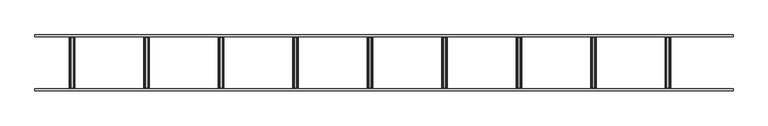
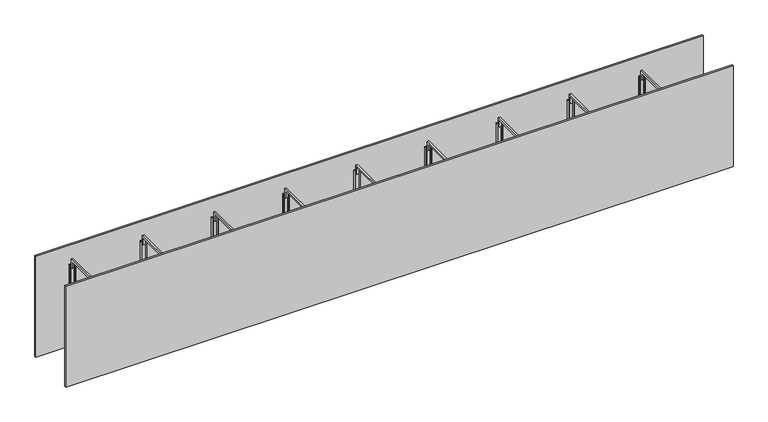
"""IFC4 building model written with IfcOpenShell, lengths in millimetres: proxy geometry, Betobeam MG : -."""

import ifcopenshell
import ifcopenshell.guid

model = None  # the IFC model being written
_history = None  # IfcOwnerHistory: only IFC2X3 demands one
_inside = {}  # id of a spatial element -> (the spatial element, [elements in it])
_under = {}  # id of a project, library or spatial element -> (it, [spatial elements below it])
_declared = {}  # id of a project -> (the project, [libraries it declares])
_typed = {}  # id of a type object -> (the type object, [elements of that type])
_made_of = {}  # id of a material, layer set ... -> (it, [elements and type objects made of it])


def new_model(schema):
    """Start an empty IFC model of exactly this schema.

    Asked for "IFC4X3", IfcOpenShell would pick the latest addendum, in which some entities
    have other attributes; the version numbers below select the first issue.
    IFC2X3 requires an IfcOwnerHistory on every rooted entity: one is made here for all.
    """
    global model, _history
    if schema == "IFC4X3":
        model = ifcopenshell.file(schema_version=(4, 3, 0, 0))
    else:
        model = ifcopenshell.file(schema=schema)
    _inside.clear()
    _under.clear()
    _declared.clear()
    _typed.clear()
    _made_of.clear()
    _history = None
    if model.schema == "IFC2X3":
        org = make("IfcOrganization", Name="unknown")
        user = make(
            "IfcPersonAndOrganization",
            ThePerson=make("IfcPerson", FamilyName="unknown"),
            TheOrganization=org,
        )
        app = make(
            "IfcApplication",
            ApplicationDeveloper=org,
            Version="unknown",
            ApplicationFullName="unknown",
            ApplicationIdentifier="unknown",
        )
        _history = make(
            "IfcOwnerHistory",
            OwningUser=user,
            OwningApplication=app,
            ChangeAction="ADDED",
            CreationDate=0,
        )
    return model


def make(cls, **values):
    """One entity of the class cls with the attributes given. An attribute that is None is left unset."""
    return model.create_entity(
        cls, **{name: value for name, value in values.items() if value is not None}
    )


def rooted(cls, **values):
    """An entity with a GlobalId (a new one), such as an element, a storey or a relation."""
    return make(cls, GlobalId=ifcopenshell.guid.new(), OwnerHistory=_history, **values)


def si_unit(unit_type, name, prefix=None):
    """IfcSIUnit, for example si_unit("LENGTHUNIT", "METRE", prefix="MILLI")."""
    return make("IfcSIUnit", UnitType=unit_type, Prefix=prefix, Name=name)


def assignment(units):
    """IfcUnitAssignment: the units of a project."""
    return None if units is None else make("IfcUnitAssignment", Units=units)


def point(xyz):
    """IfcCartesianPoint."""
    return None if xyz is None else make("IfcCartesianPoint", Coordinates=xyz)


def direction(xyz):
    """IfcDirection."""
    return None if xyz is None else make("IfcDirection", DirectionRatios=xyz)


def frame(location, z_axis=None, x_axis=None):
    """IfcAxis2Placement3D, a coordinate frame: its origin and axes. An axis left out is left unset."""
    return make(
        "IfcAxis2Placement3D",
        Location=point(location),
        Axis=direction(z_axis),
        RefDirection=direction(x_axis),
    )


def origin():
    """The frame at (0, 0, 0) with its axes left unset."""
    return frame((0.0, 0.0, 0.0))


def origin_with_axes():
    """The frame at (0, 0, 0) with the z axis (0, 0, 1) and the x axis (1, 0, 0) written out."""
    return frame((0.0, 0.0, 0.0), z_axis=(0.0, 0.0, 1.0), x_axis=(1.0, 0.0, 0.0))


def place(relative_to, where):
    """IfcLocalPlacement: puts the frame where relative to a parent placement (None: the world)."""
    return make(
        "IfcLocalPlacement", PlacementRelTo=relative_to, RelativePlacement=where
    )


def context(
    kind, dimensions, precision=None, world=None, true_north=None, identifier=None
):
    """IfcGeometricRepresentationContext, for example the 3D "Model" context."""
    return make(
        "IfcGeometricRepresentationContext",
        ContextIdentifier=identifier,
        ContextType=kind,
        CoordinateSpaceDimension=dimensions,
        Precision=precision,
        WorldCoordinateSystem=world,
        TrueNorth=true_north,
    )


def project(units=None, contexts=None):
    """IfcProject with its units and contexts."""
    return rooted(
        "IfcProject",
        Name="project",
        RepresentationContexts=contexts,
        UnitsInContext=assignment(units),
    )


def spatial(cls, under=None, at=None, **own):
    """A site, building, storey or space (cls), placed at a placement, below another one or the project."""
    s = rooted(cls, ObjectPlacement=at, **own)
    if under is not None:
        _under.setdefault(under.id(), (under, []))[1].append(s)
    return s


def polyline(points):
    """IfcPolyline through the points."""
    return make("IfcPolyline", Points=[point(p) for p in points])


def outline(outer, holes=None, kind="AREA"):
    """IfcArbitraryClosedProfileDef: a profile drawn as a closed curve; with holes, ...WithVoids."""
    if holes is None:
        return make("IfcArbitraryClosedProfileDef", ProfileType=kind, OuterCurve=outer)
    return make(
        "IfcArbitraryProfileDefWithVoids",
        ProfileType=kind,
        OuterCurve=outer,
        InnerCurves=holes,
    )


def extrude(swept, where, along, depth):
    """IfcExtrudedAreaSolid: the profile swept, set in the frame where, extruded along a direction by depth."""
    return make(
        "IfcExtrudedAreaSolid",
        SweptArea=swept,
        Position=where,
        ExtrudedDirection=direction(along),
        Depth=depth,
    )


def faces_of(points, faces, orient=None, outer=None):
    """IfcFace entities. A face is a list of loops; a loop is a list of indices into points, from 0.

    orient and outer hold one flag for each loop. By default every Orientation is true, the
    first loop of a face is its IfcFaceOuterBound and the others are IfcFaceBound.
    """
    made = []
    for i, loops in enumerate(faces):
        bounds = []
        for j, loop in enumerate(loops):
            is_outer = j == 0 if outer is None else outer[i][j]
            bounds.append(
                make(
                    "IfcFaceOuterBound" if is_outer else "IfcFaceBound",
                    Bound=make("IfcPolyLoop", Polygon=[points[k] for k in loop]),
                    Orientation=True if orient is None else orient[i][j],
                )
            )
        made.append(make("IfcFace", Bounds=bounds))
    return made


def faceted_brep(points, faces, orient=None, outer=None, voids=None):
    """IfcFacetedBrep: a solid bounded by flat faces; with voids (closed shells), ...WithVoids."""
    shared = [point(p) for p in points]
    hull = make("IfcClosedShell", CfsFaces=faces_of(shared, faces, orient, outer))
    if voids is None:
        return make("IfcFacetedBrep", Outer=hull)
    return make(
        "IfcFacetedBrepWithVoids",
        Outer=hull,
        Voids=[
            make(cls, CfsFaces=faces_of(shared, fs, o, b)) for cls, fs, o, b in voids
        ],
    )


def shape(context_of_items, identifier, shape_type, items):
    """IfcShapeRepresentation: the items that make up one representation, for example the "Body"."""
    return make(
        "IfcShapeRepresentation",
        ContextOfItems=context_of_items,
        RepresentationIdentifier=identifier,
        RepresentationType=shape_type,
        Items=items,
    )


def source(mapping_origin, context_of_items, identifier, shape_type, items):
    """IfcRepresentationMap: a shape defined once, which mapped items show again and again."""
    return make(
        "IfcRepresentationMap",
        MappingOrigin=mapping_origin,
        MappedRepresentation=shape(context_of_items, identifier, shape_type, items),
    )


def transform(
    local_origin,
    x_axis=None,
    y_axis=None,
    z_axis=None,
    scale=None,
    scale2=None,
    scale3=None,
    uniform=True,
):
    """IfcCartesianTransformationOperator3D, or its non-uniform kind. x_axis, y_axis, z_axis: its Axis1, 2, 3."""
    if uniform:
        return make(
            "IfcCartesianTransformationOperator3D",
            Axis1=direction(x_axis),
            Axis2=direction(y_axis),
            LocalOrigin=point(local_origin),
            Scale=scale,
            Axis3=direction(z_axis),
        )
    return make(
        "IfcCartesianTransformationOperator3DnonUniform",
        Axis1=direction(x_axis),
        Axis2=direction(y_axis),
        LocalOrigin=point(local_origin),
        Scale=scale,
        Axis3=direction(z_axis),
        Scale2=scale2,
        Scale3=scale3,
    )


def mapped(mapping_source, mapping_target):
    """IfcMappedItem: shows the shape of a source again, moved by a transform."""
    return make(
        "IfcMappedItem", MappingSource=mapping_source, MappingTarget=mapping_target
    )


def made_of(thing, what):
    """Note that an element or type object is made of a material, layer set ...; save() writes the relation."""
    if what is not None:
        _made_of.setdefault(what.id(), (what, []))[1].append(thing)
    return thing


def element(
    cls,
    number,
    at=None,
    inside=None,
    cuts=None,
    type_object=None,
    material=None,
    context=None,
    identifier="Body",
    shape_type=None,
    held_by="IfcProductDefinitionShape",
    body=None,
    shapes=None,
    **own,
):
    """One element of the class cls, such as IfcWall. Its Tag is "e" and its number.

    at: its placement. inside: the storey or other place that contains it. cuts: it is an
    opening in that element (IfcRelVoidsElement). A single representation is given by context,
    identifier, shape_type and body (its items); several are given by shapes. held_by: the class
    of the entity that holds the representations. save() writes the other relations.
    """
    e = rooted(cls, Tag="e%d" % number, ObjectPlacement=at, **own)
    if body is not None:
        shapes = [shape(context, identifier, shape_type, body)]
    if shapes is not None:
        e.Representation = make(held_by, Representations=shapes)
    if inside is not None:
        _inside.setdefault(inside.id(), (inside, []))[1].append(e)
    if cuts is not None:
        rooted(
            "IfcRelVoidsElement", RelatingBuildingElement=cuts, RelatedOpeningElement=e
        )
    if type_object is not None:
        _typed.setdefault(type_object.id(), (type_object, []))[1].append(e)
    return made_of(e, material)


def aggregate(whole, parts):
    """IfcRelAggregates: a whole, such as a stair, and the parts it consists of."""
    return rooted("IfcRelAggregates", RelatingObject=whole, RelatedObjects=parts)


def save(model, path):
    """Write the relations noted so far, then the file.

    IfcRelAggregates (storeys below a building ...), IfcRelContainedInSpatialStructure (elements
    in a storey), IfcRelDefinesByType, IfcRelAssociatesMaterial and IfcRelDeclares: one each for
    every whole, place, type object, material and project.
    """
    for whole, parts in _under.values():
        aggregate(whole, parts)
    for where, things in _inside.values():
        rooted(
            "IfcRelContainedInSpatialStructure",
            RelatedElements=things,
            RelatingStructure=where,
        )
    for kind, things in _typed.values():
        rooted("IfcRelDefinesByType", RelatedObjects=things, RelatingType=kind)
    for what, things in _made_of.values():
        rooted("IfcRelAssociatesMaterial", RelatedObjects=things, RelatingMaterial=what)
    for by, libraries in _declared.values():
        rooted("IfcRelDeclares", RelatingContext=by, RelatedDefinitions=libraries)
    model.write(path)


def generic_models_7b471858(model_context):
    return source(origin(), model_context, "Body", "SolidModel", [
        extrude(outline(polyline([(285.0, 520.0), (285.0, 470.0), (275.0, 470.0), (275.0, 510.0), (25.0, 510.0), (25.0, 470.0), (15.0, 470.0), (15.0, 520.0), (285.0, 520.0)])), frame((3395.0, 0.0, 0.0), z_axis=(1.0, 0.0, 0.0), x_axis=(0.0, 1.0, 0.0)), (0.0, 0.0, 1.0), 10.0),
        faceted_brep([(3385.0, 290.0, 490.0), (3385.0, 275.0, 490.0), (3387.0, 275.0, 490.0), (3387.0, 288.0, 490.0), (3413.0, 288.0, 490.0), (3413.0, 275.0, 490.0), (3415.0, 275.0, 490.0), (3415.0, 290.0, 490.0), (3385.0, 290.0, 0.0), (3385.0, 10.0, 0.0), (3385.0, 10.0, 490.0), (3385.0, 25.0, 490.0), (3385.0, 25.0, 15.0), (3385.0, 275.0, 15.0), (3387.0, 275.0, 15.0), (3387.0, 25.0, 15.0), (3387.0, 25.0, 490.0), (3387.0, 12.0, 490.0), (3387.0, 12.0, 2.0), (3387.0, 288.0, 2.0), (3413.0, 288.0, 2.0), (3413.0, 12.0, 2.0), (3413.0, 12.0, 490.0), (3413.0, 25.0, 490.0), (3413.0, 25.0, 15.0), (3413.0, 275.0, 15.0), (3415.0, 275.0, 15.0), (3415.0, 25.0, 15.0), (3415.0, 25.0, 490.0), (3415.0, 10.0, 490.0), (3415.0, 10.0, 0.0), (3415.0, 290.0, 0.0)], [[[0, 1, 2, 3, 4, 5, 6, 7]], [[1, 0, 8, 9, 10, 11, 12, 13]], [[2, 1, 13, 14]], [[3, 2, 14, 15, 16, 17, 18, 19]], [[4, 3, 19, 20]], [[5, 4, 20, 21, 22, 23, 24, 25]], [[6, 5, 25, 26]], [[7, 6, 26, 27, 28, 29, 30, 31]], [[0, 7, 31, 8]], [[14, 13, 12, 15]], [[20, 19, 18, 21]], [[26, 25, 24, 27]], [[8, 31, 30, 9]], [[10, 29, 28, 23, 22, 17, 16, 11]], [[15, 12, 11, 16]], [[21, 18, 17, 22]], [[27, 24, 23, 28]], [[9, 30, 29, 10]]]),
        extrude(outline(polyline([(285.0, 520.0), (285.0, 470.0), (275.0, 470.0), (275.0, 510.0), (25.0, 510.0), (25.0, 470.0), (15.0, 470.0), (15.0, 520.0), (285.0, 520.0)])), frame((2995.0, 0.0, 0.0), z_axis=(1.0, 0.0, 0.0), x_axis=(0.0, 1.0, 0.0)), (0.0, 0.0, 1.0), 10.0),
        faceted_brep([(2985.0, 290.0, 490.0), (2985.0, 275.0, 490.0), (2987.0, 275.0, 490.0), (2987.0, 288.0, 490.0), (3013.0, 288.0, 490.0), (3013.0, 275.0, 490.0), (3015.0, 275.0, 490.0), (3015.0, 290.0, 490.0), (2985.0, 290.0, 0.0), (2985.0, 10.0, 0.0), (2985.0, 10.0, 490.0), (2985.0, 25.0, 490.0), (2985.0, 25.0, 15.0), (2985.0, 275.0, 15.0), (2987.0, 275.0, 15.0), (2987.0, 25.0, 15.0), (2987.0, 25.0, 490.0), (2987.0, 12.0, 490.0), (2987.0, 12.0, 2.0), (2987.0, 288.0, 2.0), (3013.0, 288.0, 2.0), (3013.0, 12.0, 2.0), (3013.0, 12.0, 490.0), (3013.0, 25.0, 490.0), (3013.0, 25.0, 15.0), (3013.0, 275.0, 15.0), (3015.0, 275.0, 15.0), (3015.0, 25.0, 15.0), (3015.0, 25.0, 490.0), (3015.0, 10.0, 490.0), (3015.0, 10.0, 0.0), (3015.0, 290.0, 0.0)], [[[0, 1, 2, 3, 4, 5, 6, 7]], [[1, 0, 8, 9, 10, 11, 12, 13]], [[2, 1, 13, 14]], [[3, 2, 14, 15, 16, 17, 18, 19]], [[4, 3, 19, 20]], [[5, 4, 20, 21, 22, 23, 24, 25]], [[6, 5, 25, 26]], [[7, 6, 26, 27, 28, 29, 30, 31]], [[0, 7, 31, 8]], [[14, 13, 12, 15]], [[20, 19, 18, 21]], [[26, 25, 24, 27]], [[8, 31, 30, 9]], [[10, 29, 28, 23, 22, 17, 16, 11]], [[15, 12, 11, 16]], [[21, 18, 17, 22]], [[27, 24, 23, 28]], [[9, 30, 29, 10]]]),
        extrude(outline(polyline([(285.0, 520.0), (285.0, 470.0), (275.0, 470.0), (275.0, 510.0), (25.0, 510.0), (25.0, 470.0), (15.0, 470.0), (15.0, 520.0), (285.0, 520.0)])), frame((2595.0, 0.0, 0.0), z_axis=(1.0, 0.0, 0.0), x_axis=(0.0, 1.0, 0.0)), (0.0, 0.0, 1.0), 10.0),
        faceted_brep([(2585.0, 290.0, 490.0), (2585.0, 275.0, 490.0), (2587.0, 275.0, 490.0), (2587.0, 288.0, 490.0), (2613.0, 288.0, 490.0), (2613.0, 275.0, 490.0), (2615.0, 275.0, 490.0), (2615.0, 290.0, 490.0), (2585.0, 290.0, 0.0), (2585.0, 10.0, 0.0), (2585.0, 10.0, 490.0), (2585.0, 25.0, 490.0), (2585.0, 25.0, 15.0), (2585.0, 275.0, 15.0), (2587.0, 275.0, 15.0), (2587.0, 25.0, 15.0), (2587.0, 25.0, 490.0), (2587.0, 12.0, 490.0), (2587.0, 12.0, 2.0), (2587.0, 288.0, 2.0), (2613.0, 288.0, 2.0), (2613.0, 12.0, 2.0), (2613.0, 12.0, 490.0), (2613.0, 25.0, 490.0), (2613.0, 25.0, 15.0), (2613.0, 275.0, 15.0), (2615.0, 275.0, 15.0), (2615.0, 25.0, 15.0), (2615.0, 25.0, 490.0), (2615.0, 10.0, 490.0), (2615.0, 10.0, 0.0), (2615.0, 290.0, 0.0)], [[[0, 1, 2, 3, 4, 5, 6, 7]], [[1, 0, 8, 9, 10, 11, 12, 13]], [[2, 1, 13, 14]], [[3, 2, 14, 15, 16, 17, 18, 19]], [[4, 3, 19, 20]], [[5, 4, 20, 21, 22, 23, 24, 25]], [[6, 5, 25, 26]], [[7, 6, 26, 27, 28, 29, 30, 31]], [[0, 7, 31, 8]], [[14, 13, 12, 15]], [[20, 19, 18, 21]], [[26, 25, 24, 27]], [[8, 31, 30, 9]], [[10, 29, 28, 23, 22, 17, 16, 11]], [[15, 12, 11, 16]], [[21, 18, 17, 22]], [[27, 24, 23, 28]], [[9, 30, 29, 10]]]),
        extrude(outline(polyline([(285.0, 520.0), (285.0, 470.0), (275.0, 470.0), (275.0, 510.0), (25.0, 510.0), (25.0, 470.0), (15.0, 470.0), (15.0, 520.0), (285.0, 520.0)])), frame((2195.0, 0.0, 0.0), z_axis=(1.0, 0.0, 0.0), x_axis=(0.0, 1.0, 0.0)), (0.0, 0.0, 1.0), 10.0),
        faceted_brep([(2185.0, 290.0, 490.0), (2185.0, 275.0, 490.0), (2187.0, 275.0, 490.0), (2187.0, 288.0, 490.0), (2213.0, 288.0, 490.0), (2213.0, 275.0, 490.0), (2215.0, 275.0, 490.0), (2215.0, 290.0, 490.0), (2185.0, 290.0, 0.0), (2185.0, 10.0, 0.0), (2185.0, 10.0, 490.0), (2185.0, 25.0, 490.0), (2185.0, 25.0, 15.0), (2185.0, 275.0, 15.0), (2187.0, 275.0, 15.0), (2187.0, 25.0, 15.0), (2187.0, 25.0, 490.0), (2187.0, 12.0, 490.0), (2187.0, 12.0, 2.0), (2187.0, 288.0, 2.0), (2213.0, 288.0, 2.0), (2213.0, 12.0, 2.0), (2213.0, 12.0, 490.0), (2213.0, 25.0, 490.0), (2213.0, 25.0, 15.0), (2213.0, 275.0, 15.0), (2215.0, 275.0, 15.0), (2215.0, 25.0, 15.0), (2215.0, 25.0, 490.0), (2215.0, 10.0, 490.0), (2215.0, 10.0, 0.0), (2215.0, 290.0, 0.0)], [[[0, 1, 2, 3, 4, 5, 6, 7]], [[1, 0, 8, 9, 10, 11, 12, 13]], [[2, 1, 13, 14]], [[3, 2, 14, 15, 16, 17, 18, 19]], [[4, 3, 19, 20]], [[5, 4, 20, 21, 22, 23, 24, 25]], [[6, 5, 25, 26]], [[7, 6, 26, 27, 28, 29, 30, 31]], [[0, 7, 31, 8]], [[14, 13, 12, 15]], [[20, 19, 18, 21]], [[26, 25, 24, 27]], [[8, 31, 30, 9]], [[10, 29, 28, 23, 22, 17, 16, 11]], [[15, 12, 11, 16]], [[21, 18, 17, 22]], [[27, 24, 23, 28]], [[9, 30, 29, 10]]]),
        extrude(outline(polyline([(285.0, 520.0), (285.0, 470.0), (275.0, 470.0), (275.0, 510.0), (25.0, 510.0), (25.0, 470.0), (15.0, 470.0), (15.0, 520.0), (285.0, 520.0)])), frame((1795.0, 0.0, 0.0), z_axis=(1.0, 0.0, 0.0), x_axis=(0.0, 1.0, 0.0)), (0.0, 0.0, 1.0), 10.0),
        faceted_brep([(1785.0, 290.0, 490.0), (1785.0, 275.0, 490.0), (1787.0, 275.0, 490.0), (1787.0, 288.0, 490.0), (1813.0, 288.0, 490.0), (1813.0, 275.0, 490.0), (1815.0, 275.0, 490.0), (1815.0, 290.0, 490.0), (1785.0, 290.0, 0.0), (1785.0, 10.0, 0.0), (1785.0, 10.0, 490.0), (1785.0, 25.0, 490.0), (1785.0, 25.0, 15.0), (1785.0, 275.0, 15.0), (1787.0, 275.0, 15.0), (1787.0, 25.0, 15.0), (1787.0, 25.0, 490.0), (1787.0, 12.0, 490.0), (1787.0, 12.0, 2.0), (1787.0, 288.0, 2.0), (1813.0, 288.0, 2.0), (1813.0, 12.0, 2.0), (1813.0, 12.0, 490.0), (1813.0, 25.0, 490.0), (1813.0, 25.0, 15.0), (1813.0, 275.0, 15.0), (1815.0, 275.0, 15.0), (1815.0, 25.0, 15.0), (1815.0, 25.0, 490.0), (1815.0, 10.0, 490.0), (1815.0, 10.0, 0.0), (1815.0, 290.0, 0.0)], [[[0, 1, 2, 3, 4, 5, 6, 7]], [[1, 0, 8, 9, 10, 11, 12, 13]], [[2, 1, 13, 14]], [[3, 2, 14, 15, 16, 17, 18, 19]], [[4, 3, 19, 20]], [[5, 4, 20, 21, 22, 23, 24, 25]], [[6, 5, 25, 26]], [[7, 6, 26, 27, 28, 29, 30, 31]], [[0, 7, 31, 8]], [[14, 13, 12, 15]], [[20, 19, 18, 21]], [[26, 25, 24, 27]], [[8, 31, 30, 9]], [[10, 29, 28, 23, 22, 17, 16, 11]], [[15, 12, 11, 16]], [[21, 18, 17, 22]], [[27, 24, 23, 28]], [[9, 30, 29, 10]]]),
        extrude(outline(polyline([(285.0, 520.0), (285.0, 470.0), (275.0, 470.0), (275.0, 510.0), (25.0, 510.0), (25.0, 470.0), (15.0, 470.0), (15.0, 520.0), (285.0, 520.0)])), frame((1395.0, 0.0, 0.0), z_axis=(1.0, 0.0, 0.0), x_axis=(0.0, 1.0, 0.0)), (0.0, 0.0, 1.0), 10.0),
        faceted_brep([(1385.0, 290.0, 490.0), (1385.0, 275.0, 490.0), (1387.0, 275.0, 490.0), (1387.0, 288.0, 490.0), (1413.0, 288.0, 490.0), (1413.0, 275.0, 490.0), (1415.0, 275.0, 490.0), (1415.0, 290.0, 490.0), (1385.0, 290.0, 0.0), (1385.0, 10.0, 0.0), (1385.0, 10.0, 490.0), (1385.0, 25.0, 490.0), (1385.0, 25.0, 15.0), (1385.0, 275.0, 15.0), (1387.0, 275.0, 15.0), (1387.0, 25.0, 15.0), (1387.0, 25.0, 490.0), (1387.0, 12.0, 490.0), (1387.0, 12.0, 2.0), (1387.0, 288.0, 2.0), (1413.0, 288.0, 2.0), (1413.0, 12.0, 2.0), (1413.0, 12.0, 490.0), (1413.0, 25.0, 490.0), (1413.0, 25.0, 15.0), (1413.0, 275.0, 15.0), (1415.0, 275.0, 15.0), (1415.0, 25.0, 15.0), (1415.0, 25.0, 490.0), (1415.0, 10.0, 490.0), (1415.0, 10.0, 0.0), (1415.0, 290.0, 0.0)], [[[0, 1, 2, 3, 4, 5, 6, 7]], [[1, 0, 8, 9, 10, 11, 12, 13]], [[2, 1, 13, 14]], [[3, 2, 14, 15, 16, 17, 18, 19]], [[4, 3, 19, 20]], [[5, 4, 20, 21, 22, 23, 24, 25]], [[6, 5, 25, 26]], [[7, 6, 26, 27, 28, 29, 30, 31]], [[0, 7, 31, 8]], [[14, 13, 12, 15]], [[20, 19, 18, 21]], [[26, 25, 24, 27]], [[8, 31, 30, 9]], [[10, 29, 28, 23, 22, 17, 16, 11]], [[15, 12, 11, 16]], [[21, 18, 17, 22]], [[27, 24, 23, 28]], [[9, 30, 29, 10]]]),
        extrude(outline(polyline([(285.0, 520.0), (285.0, 470.0), (275.0, 470.0), (275.0, 510.0), (25.0, 510.0), (25.0, 470.0), (15.0, 470.0), (15.0, 520.0), (285.0, 520.0)])), frame((995.0, 0.0, 0.0), z_axis=(1.0, 0.0, 0.0), x_axis=(0.0, 1.0, 0.0)), (0.0, 0.0, 1.0), 10.0),
        faceted_brep([(985.0, 290.0, 490.0), (985.0, 275.0, 490.0), (987.0, 275.0, 490.0), (987.0, 288.0, 490.0), (1013.0, 288.0, 490.0), (1013.0, 275.0, 490.0), (1015.0, 275.0, 490.0), (1015.0, 290.0, 490.0), (985.0, 290.0, 0.0), (985.0, 10.0, 0.0), (985.0, 10.0, 490.0), (985.0, 25.0, 490.0), (985.0, 25.0, 15.0), (985.0, 275.0, 15.0), (987.0, 275.0, 15.0), (987.0, 25.0, 15.0), (987.0, 25.0, 490.0), (987.0, 12.0, 490.0), (987.0, 12.0, 2.0), (987.0, 288.0, 2.0), (1013.0, 288.0, 2.0), (1013.0, 12.0, 2.0), (1013.0, 12.0, 490.0), (1013.0, 25.0, 490.0), (1013.0, 25.0, 15.0), (1013.0, 275.0, 15.0), (1015.0, 275.0, 15.0), (1015.0, 25.0, 15.0), (1015.0, 25.0, 490.0), (1015.0, 10.0, 490.0), (1015.0, 10.0, 0.0), (1015.0, 290.0, 0.0)], [[[0, 1, 2, 3, 4, 5, 6, 7]], [[1, 0, 8, 9, 10, 11, 12, 13]], [[2, 1, 13, 14]], [[3, 2, 14, 15, 16, 17, 18, 19]], [[4, 3, 19, 20]], [[5, 4, 20, 21, 22, 23, 24, 25]], [[6, 5, 25, 26]], [[7, 6, 26, 27, 28, 29, 30, 31]], [[0, 7, 31, 8]], [[14, 13, 12, 15]], [[20, 19, 18, 21]], [[26, 25, 24, 27]], [[8, 31, 30, 9]], [[10, 29, 28, 23, 22, 17, 16, 11]], [[15, 12, 11, 16]], [[21, 18, 17, 22]], [[27, 24, 23, 28]], [[9, 30, 29, 10]]]),
        extrude(outline(polyline([(285.0, 520.0), (285.0, 470.0), (275.0, 470.0), (275.0, 510.0), (25.0, 510.0), (25.0, 470.0), (15.0, 470.0), (15.0, 520.0), (285.0, 520.0)])), frame((595.0, 0.0, 0.0), z_axis=(1.0, 0.0, 0.0), x_axis=(0.0, 1.0, 0.0)), (0.0, 0.0, 1.0), 10.0),
        faceted_brep([(585.0, 290.0, 490.0), (585.0, 275.0, 490.0), (587.0, 275.0, 490.0), (587.0, 288.0, 490.0), (613.0, 288.0, 490.0), (613.0, 275.0, 490.0), (615.0, 275.0, 490.0), (615.0, 290.0, 490.0), (585.0, 290.0, 0.0), (585.0, 10.0, 0.0), (585.0, 10.0, 490.0), (585.0, 25.0, 490.0), (585.0, 25.0, 15.0), (585.0, 275.0, 15.0), (587.0, 275.0, 15.0), (587.0, 25.0, 15.0), (587.0, 25.0, 490.0), (587.0, 12.0, 490.0), (587.0, 12.0, 2.0), (587.0, 288.0, 2.0), (613.0, 288.0, 2.0), (613.0, 12.0, 2.0), (613.0, 12.0, 490.0), (613.0, 25.0, 490.0), (613.0, 25.0, 15.0), (613.0, 275.0, 15.0), (615.0, 275.0, 15.0), (615.0, 25.0, 15.0), (615.0, 25.0, 490.0), (615.0, 10.0, 490.0), (615.0, 10.0, 0.0), (615.0, 290.0, 0.0)], [[[0, 1, 2, 3, 4, 5, 6, 7]], [[1, 0, 8, 9, 10, 11, 12, 13]], [[2, 1, 13, 14]], [[3, 2, 14, 15, 16, 17, 18, 19]], [[4, 3, 19, 20]], [[5, 4, 20, 21, 22, 23, 24, 25]], [[6, 5, 25, 26]], [[7, 6, 26, 27, 28, 29, 30, 31]], [[0, 7, 31, 8]], [[14, 13, 12, 15]], [[20, 19, 18, 21]], [[26, 25, 24, 27]], [[8, 31, 30, 9]], [[10, 29, 28, 23, 22, 17, 16, 11]], [[15, 12, 11, 16]], [[21, 18, 17, 22]], [[27, 24, 23, 28]], [[9, 30, 29, 10]]]),
        extrude(outline(polyline([(285.0, 520.0), (285.0, 470.0), (275.0, 470.0), (275.0, 510.0), (25.0, 510.0), (25.0, 470.0), (15.0, 470.0), (15.0, 520.0), (285.0, 520.0)])), frame((195.0, 0.0, 0.0), z_axis=(1.0, 0.0, 0.0), x_axis=(0.0, 1.0, 0.0)), (0.0, 0.0, 1.0), 10.0),
        faceted_brep([(185.0, 290.0, 490.0), (185.0, 275.0, 490.0), (187.0, 275.0, 490.0), (187.0, 288.0, 490.0), (213.0, 288.0, 490.0), (213.0, 275.0, 490.0), (215.0, 275.0, 490.0), (215.0, 290.0, 490.0), (185.0, 290.0, 0.0), (185.0, 10.0, 0.0), (185.0, 10.0, 490.0), (185.0, 25.0, 490.0), (185.0, 25.0, 15.0), (185.0, 275.0, 15.0), (187.0, 275.0, 15.0), (187.0, 25.0, 15.0), (187.0, 25.0, 490.0), (187.0, 12.0, 490.0), (187.0, 12.0, 2.0), (187.0, 288.0, 2.0), (213.0, 288.0, 2.0), (213.0, 12.0, 2.0), (213.0, 12.0, 490.0), (213.0, 25.0, 490.0), (213.0, 25.0, 15.0), (213.0, 275.0, 15.0), (215.0, 275.0, 15.0), (215.0, 25.0, 15.0), (215.0, 25.0, 490.0), (215.0, 10.0, 490.0), (215.0, 10.0, 0.0), (215.0, 290.0, 0.0)], [[[0, 1, 2, 3, 4, 5, 6, 7]], [[1, 0, 8, 9, 10, 11, 12, 13]], [[2, 1, 13, 14]], [[3, 2, 14, 15, 16, 17, 18, 19]], [[4, 3, 19, 20]], [[5, 4, 20, 21, 22, 23, 24, 25]], [[6, 5, 25, 26]], [[7, 6, 26, 27, 28, 29, 30, 31]], [[0, 7, 31, 8]], [[14, 13, 12, 15]], [[20, 19, 18, 21]], [[26, 25, 24, 27]], [[8, 31, 30, 9]], [[10, 29, 28, 23, 22, 17, 16, 11]], [[15, 12, 11, 16]], [[21, 18, 17, 22]], [[27, 24, 23, 28]], [[9, 30, 29, 10]]]),
        extrude(outline(polyline([(3750.0, 10.0), (3750.0, 0.0), (0.0, 0.0), (0.0, 10.0), (3750.0, 10.0)])), origin_with_axes(), (0.0, 0.0, 1.0), 600.0),
        extrude(outline(polyline([(3750.0, 300.0), (3750.0, 290.0), (0.0, 290.0), (0.0, 300.0), (3750.0, 300.0)])), origin_with_axes(), (0.0, 0.0, 1.0), 600.0),
    ])


if __name__ == "__main__":
    model = new_model("IFC4")
    model_context = context("Model", 3, world=origin())
    ifc_project = project(units=[si_unit("LENGTHUNIT", "METRE", prefix="MILLI")], contexts=[model_context])
    site = spatial("IfcSite", under=ifc_project)
    building = spatial("IfcBuilding", under=site)
    placement = place(None, origin())
    generic_models_shape = generic_models_7b471858(model_context)
    element("IfcBuildingElementProxy", 1, Name="Betobeam MG : -", ObjectType="Betobeam MG : -", at=placement, inside=building, context=model_context, shape_type="MappedRepresentation", body=[
        mapped(generic_models_shape, transform((0.0, 0.0, 0.0), x_axis=(1.0, 0.0, 0.0), y_axis=(0.0, 1.0, 0.0), z_axis=(0.0, 0.0, 1.0))),
    ])
    save(model, "model.ifc")
